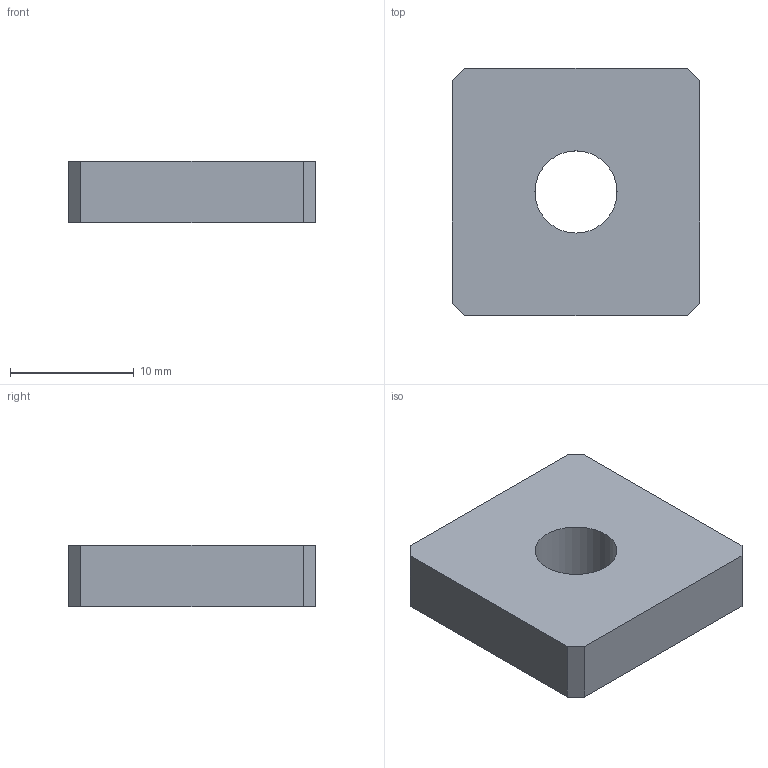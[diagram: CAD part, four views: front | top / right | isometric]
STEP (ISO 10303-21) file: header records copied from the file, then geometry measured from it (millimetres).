
FILE_DESCRIPTION(/* description */ ('SQUARE NUT M8, STAINLESS STEEL'),/* implementation_level */ '2;1');
FILE_NAME(/* name */ '500-4380.stp',/* time_stamp */ '2022-09-16T10:17:55+02:00',/* author */ ('RH'),/* organization */ ('CARRYLINE'),/* preprocessor_version */ 'ST-DEVELOPER v19.2',/* originating_system */ 'Autodesk Inventor 2023',/* authorisation */ '');
FILE_SCHEMA (('AUTOMOTIVE_DESIGN { 1 0 10303 214 3 1 1 }'));
Length unit declared in the file: millimetre
Products named in the file (1): 500-4380
Bounding box: 20 x 20 x 5 mm (x, y, z)
Volume: 1816.5 mm3; surface area: 1219.3 mm2
Topology: 1 solids, 1 shells, 11 faces, 27 edges, 18 vertices
Faces by surface type: plane 10, cylinder 1
Full cylindrical faces by diameter (mm): 6.647 x1
Entity records: 370 total; most frequent: CARTESIAN_POINT 57, ORIENTED_EDGE 54, DIRECTION 53, EDGE_CURVE 27, LINE 25, VECTOR 25, VERTEX_POINT 18, AXIS2_PLACEMENT_3D 14
